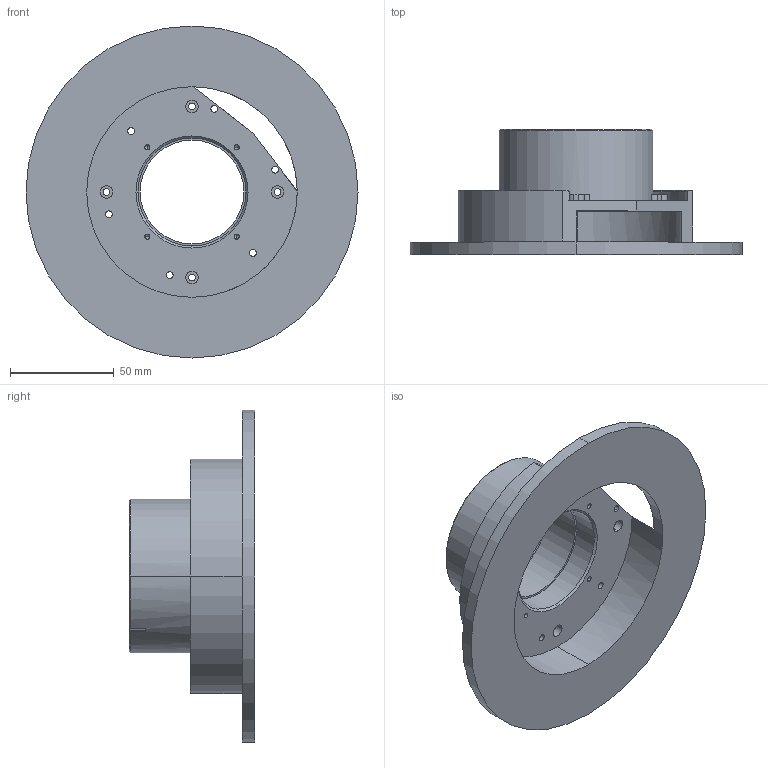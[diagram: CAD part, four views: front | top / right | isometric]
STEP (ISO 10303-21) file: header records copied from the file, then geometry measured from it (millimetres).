
FILE_DESCRIPTION (( 'STEP AP214' ), '1' );
FILE_NAME ('-RO100测试定子工装-A（赛钢版）.stp', '2024-06-24T00:40:06', ( '' ), ( '' ), 'SwSTEP 2.0', 'SolidWorks 2022', '' );
FILE_SCHEMA (( 'AUTOMOTIVE_DESIGN' ));
Length unit declared in the file: millimetre
Products named in the file (1): -RO100测试定子工装-A（赛钢版）
Bounding box: 160 x 60.5 x 160 mm (x, y, z)
Volume: 210170.2 mm3; surface area: 67072.4 mm2
Topology: 1 solids, 1 shells, 122 faces, 326 edges, 209 vertices
Faces by surface type: cylinder 75, plane 27, cone 20
Entity records: 3935 total; most frequent: DIRECTION 739, CARTESIAN_POINT 682, ORIENTED_EDGE 636, EDGE_CURVE 318, AXIS2_PLACEMENT_3D 302, VERTEX_POINT 209, CIRCLE 179, EDGE_LOOP 157
